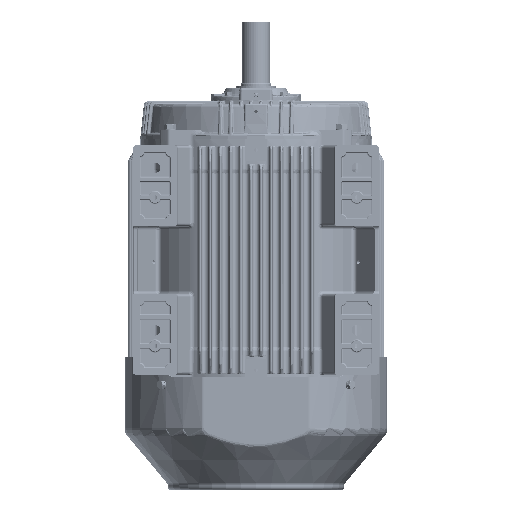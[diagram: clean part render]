
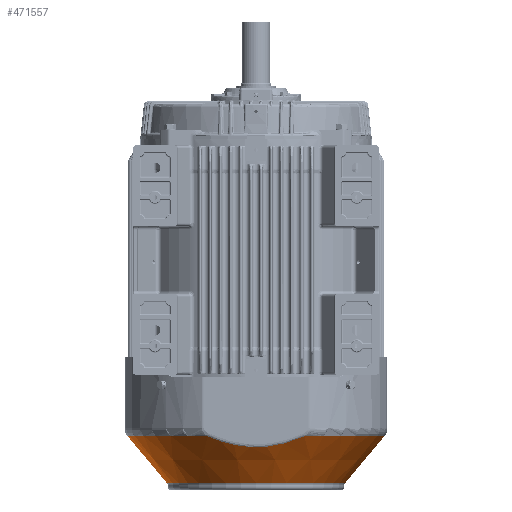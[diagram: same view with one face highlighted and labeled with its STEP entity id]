
A CAD part, front view. The second image highlights one B-rep face of the part: STEP entity #471557.
In plain terms, the highlighted conical face has half-angle 40 degrees and reference radius 201.872 mm.
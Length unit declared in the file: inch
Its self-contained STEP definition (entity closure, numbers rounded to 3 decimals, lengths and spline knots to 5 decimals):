
#12150 = CARTESIAN_POINT ( 'NONE',  ( 3.96498, -10.59751, -15.85323 ) ) ;
#20863 = AXIS2_PLACEMENT_3D ( 'NONE', #522496, #155978, #297710 ) ;
#23811 = CARTESIAN_POINT ( 'NONE',  ( 1.84553, -10.61224, -16.50243 ) ) ;
#25780 = CARTESIAN_POINT ( 'NONE',  ( -0.37184, -10.61655, -16.68011 ) ) ;
#26080 = ORIENTED_EDGE ( 'NONE', *, *, #382321, .T. ) ;
#29634 = CARTESIAN_POINT ( 'NONE',  ( -4.30675, -10.59435, -15.70333 ) ) ;
#50724 = EDGE_CURVE ( 'NONE', #440169, #306067, #486865, .T. ) ;
#69167 = CARTESIAN_POINT ( 'NONE',  ( -2.37036, -10.60933, -16.37882 ) ) ;
#71099 = CARTESIAN_POINT ( 'NONE',  ( 0.36657, -10.61642, -16.67478 ) ) ;
#71675 = EDGE_CURVE ( 'NONE', #440169, #510986, #420060, .T. ) ;
#75011 = CARTESIAN_POINT ( 'NONE',  ( 3.6194, -10.60048, -15.98928 ) ) ;
#88115 = CARTESIAN_POINT ( 'NONE',  ( 0., 0., -19.86084 ) ) ;
#104864 = CARTESIAN_POINT ( 'NONE',  ( 7.9477, 0., -19.86084 ) ) ;
#112663 = CARTESIAN_POINT ( 'NONE',  ( -2.55003, -10.60823, -16.33167 ) ) ;
#115100 = VERTEX_POINT ( 'NONE', #478460 ) ;
#132555 = CARTESIAN_POINT ( 'NONE',  ( 4.30675, -10.59435, -15.70333 ) ) ;
#139447 = DIRECTION ( 'NONE',  ( 0., 0., 1. ) ) ;
#153391 = CARTESIAN_POINT ( 'NONE',  ( 4.30675, -10.59435, -15.70333 ) ) ;
#155978 = DIRECTION ( 'NONE',  ( 0., 0., 1. ) ) ;
#163887 = CARTESIAN_POINT ( 'NONE',  ( 0.87754, -10.61553, -16.63842 ) ) ;
#165859 = CARTESIAN_POINT ( 'NONE',  ( -3.17508, -10.60389, -16.14137 ) ) ;
#180249 = AXIS2_PLACEMENT_3D ( 'NONE', #365241, #278434, #503179 ) ;
#184747 = ORIENTED_EDGE ( 'NONE', *, *, #71675, .F. ) ;
#202127 = B_SPLINE_CURVE_WITH_KNOTS ( 'NONE', 3,
 ( #132555, #12150, #75011, #295986, #205366, #23811, #382818, #564147, #297927, #526621, #163887, #254527, #294071, #71099, #207298, #25780, #299879, #256500, #567959, #69167, #112663, #386732, #518838, #341332, #165859, #434035, #252568, #339398, #384822, #29634 ),
 .UNSPECIFIED., .F., .F.,
 ( 4, 2, 2, 2, 2, 2, 2, 2, 2, 2, 2, 2, 2, 2, 4 ),
 ( 0., 0.02814, 0.05628, 0.08442, 0.08794, 0.09146, 0.09849, 0.11256, 0.1407, 0.16884, 0.18291, 0.18995, 0.19698, 0.21105, 0.22512 ),
 .UNSPECIFIED. ) ;
#203403 = ORIENTED_EDGE ( 'NONE', *, *, #511044, .F. ) ;
#205366 = CARTESIAN_POINT ( 'NONE',  ( 2.56484, -10.60825, -16.33265 ) ) ;
#207298 = CARTESIAN_POINT ( 'NONE',  ( 0.18154, -10.61655, -16.68029 ) ) ;
#230083 = DIRECTION ( 'NONE',  ( 1., 0., 0. ) ) ;
#230713 = AXIS2_PLACEMENT_3D ( 'NONE', #567387, #297350, #301225 ) ;
#244889 = ORIENTED_EDGE ( 'NONE', *, *, #50724, .T. ) ;
#248237 = VERTEX_POINT ( 'NONE', #153391 ) ;
#252568 = CARTESIAN_POINT ( 'NONE',  ( -3.61553, -10.60043, -15.98628 ) ) ;
#254527 = CARTESIAN_POINT ( 'NONE',  ( 0.73791, -10.61584, -16.65104 ) ) ;
#256500 = CARTESIAN_POINT ( 'NONE',  ( -1.46749, -10.61388, -16.57041 ) ) ;
#264972 = VECTOR ( 'NONE', #491827, 39.37008 ) ;
#278434 = DIRECTION ( 'NONE',  ( 0., 0., 1. ) ) ;
#293488 = CARTESIAN_POINT ( 'NONE',  ( -11.43627, 0., -15.70333 ) ) ;
#294071 = CARTESIAN_POINT ( 'NONE',  ( 0.64497, -10.61601, -16.65803 ) ) ;
#295986 = CARTESIAN_POINT ( 'NONE',  ( 2.91933, -10.60585, -16.229 ) ) ;
#297350 = DIRECTION ( 'NONE',  ( 0., 0., 1. ) ) ;
#297710 = DIRECTION ( 'NONE',  ( 1., 0., 0. ) ) ;
#297927 = CARTESIAN_POINT ( 'NONE',  ( 1.01722, -10.61518, -16.62404 ) ) ;
#299863 = EDGE_CURVE ( 'NONE', #248237, #115100, #470003, .T. ) ;
#299879 = CARTESIAN_POINT ( 'NONE',  ( -0.73849, -10.616, -16.65769 ) ) ;
#301225 = DIRECTION ( 'NONE',  ( 1., 0., 0. ) ) ;
#304367 = CONICAL_SURFACE ( 'NONE', #345112, 7.9477, 0.698 ) ;
#306067 = VERTEX_POINT ( 'NONE', #104864 ) ;
#317760 = VERTEX_POINT ( 'NONE', #356715 ) ;
#318790 = CARTESIAN_POINT ( 'NONE',  ( -7.9477, 0., -19.86084 ) ) ;
#339398 = CARTESIAN_POINT ( 'NONE',  ( -3.96327, -10.59747, -15.85009 ) ) ;
#341332 = CARTESIAN_POINT ( 'NONE',  ( -3.08639, -10.60455, -16.17056 ) ) ;
#345112 = AXIS2_PLACEMENT_3D ( 'NONE', #88115, #139447, #230083 ) ;
#356715 = CARTESIAN_POINT ( 'NONE',  ( -4.30675, -10.59435, -15.70333 ) ) ;
#365241 = CARTESIAN_POINT ( 'NONE',  ( 0., 0., -19.86084 ) ) ;
#380169 = ORIENTED_EDGE ( 'NONE', *, *, #485278, .T. ) ;
#382321 = EDGE_CURVE ( 'NONE', #306067, #115100, #461343, .T. ) ;
#382818 = CARTESIAN_POINT ( 'NONE',  ( 1.48071, -10.61383, -16.56854 ) ) ;
#384822 = CARTESIAN_POINT ( 'NONE',  ( -4.13567, -10.59593, -15.77836 ) ) ;
#386732 = CARTESIAN_POINT ( 'NONE',  ( -2.81884, -10.60644, -16.2539 ) ) ;
#397821 = VECTOR ( 'NONE', #529969, 39.37008 ) ;
#399167 = CARTESIAN_POINT ( 'NONE',  ( -7.9477, 0., -19.86084 ) ) ;
#420060 = LINE ( 'NONE', #399167, #264972 ) ;
#423608 = CIRCLE ( 'NONE', #230713, 11.43627 ) ;
#434035 = CARTESIAN_POINT ( 'NONE',  ( -3.44013, -10.60186, -16.05077 ) ) ;
#440169 = VERTEX_POINT ( 'NONE', #318790 ) ;
#443234 = CARTESIAN_POINT ( 'NONE',  ( 7.9477, 0., -19.86084 ) ) ;
#461343 = LINE ( 'NONE', #443234, #397821 ) ;
#470003 = CIRCLE ( 'NONE', #20863, 11.43627 ) ;
#471557 = ADVANCED_FACE ( 'NONE', ( #501833 ), #304367, .T. ) ;
#478460 = CARTESIAN_POINT ( 'NONE',  ( 11.43627, 0., -15.70333 ) ) ;
#485278 = EDGE_CURVE ( 'NONE', #248237, #317760, #202127, .T. ) ;
#486865 = CIRCLE ( 'NONE', #180249, 7.9477 ) ;
#491827 = DIRECTION ( 'NONE',  ( -0.643, 0., 0.766 ) ) ;
#501833 = FACE_OUTER_BOUND ( 'NONE', #582416, .T. ) ;
#503179 = DIRECTION ( 'NONE',  ( 1., 0., 0. ) ) ;
#510986 = VERTEX_POINT ( 'NONE', #293488 ) ;
#511044 = EDGE_CURVE ( 'NONE', #510986, #317760, #423608, .T. ) ;
#518838 = CARTESIAN_POINT ( 'NONE',  ( -2.90831, -10.60582, -16.22681 ) ) ;
#522496 = CARTESIAN_POINT ( 'NONE',  ( 0., 0., -15.70333 ) ) ;
#526621 = CARTESIAN_POINT ( 'NONE',  ( 0.92417, -10.61542, -16.63385 ) ) ;
#529969 = DIRECTION ( 'NONE',  ( 0.643, 0., 0.766 ) ) ;
#555463 = ORIENTED_EDGE ( 'NONE', *, *, #299863, .F. ) ;
#564147 = CARTESIAN_POINT ( 'NONE',  ( 1.06365, -10.61505, -16.61879 ) ) ;
#567387 = CARTESIAN_POINT ( 'NONE',  ( 0., 0., -15.70333 ) ) ;
#567959 = CARTESIAN_POINT ( 'NONE',  ( -1.82983, -10.61231, -16.50556 ) ) ;
#582416 = EDGE_LOOP ( 'NONE', ( #184747, #244889, #26080, #555463, #380169, #203403 ) ) ;
